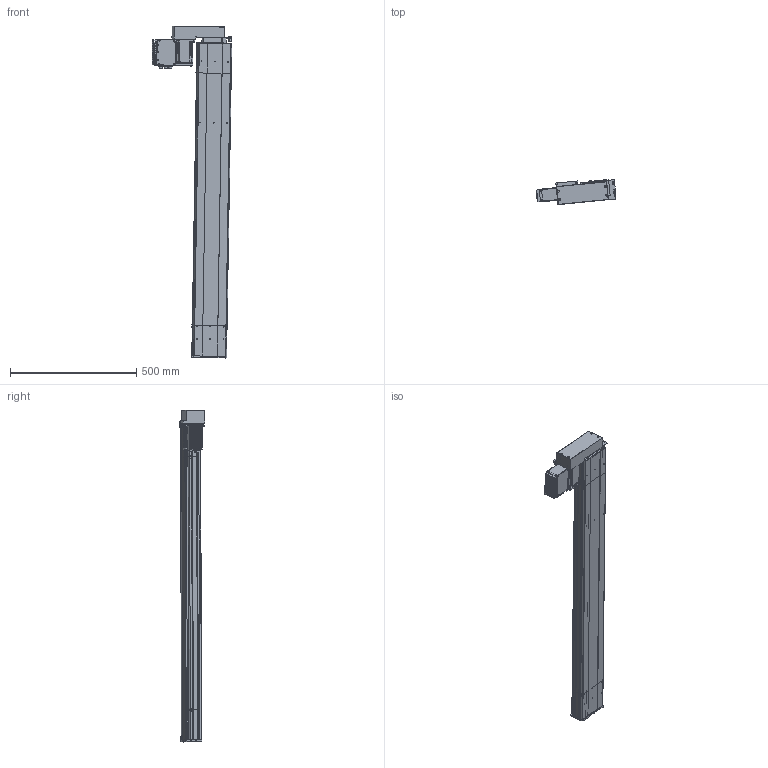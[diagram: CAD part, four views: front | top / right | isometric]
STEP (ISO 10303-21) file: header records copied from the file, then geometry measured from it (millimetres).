
FILE_DESCRIPTION (( 'STEP AP203' ), '1' );
FILE_NAME ('D14 TSH M4 BR L10 S1000.STEP', '2012-10-10T13:57:43', ( '' ), ( '' ), 'SwSTEP 2.0', 'SolidWorks 2010', '' );
FILE_SCHEMA (( 'CONFIG_CONTROL_DESIGN' ));
Products named in the file (27): T犨e contre le moteur_2; Sub D 9cts_2; T犨e fond_2; Connecteur rond D10 3cts_2; Moteur_2; corpl tail D14_Default_2; Tôle Arrière_2; Couvercle_2; Tôle latérale_2; Vis TF 3 torkx_2; plaque de  bout tail D14_Default_2; plaque de maintient D14; Vis CHC M8; vis CHC M7; D14 TSH M4 BR L10 S1000; corp head D14_Default_2; plaque de  bout head D14 MD_Default_2; Connecteur rond D12 4cts_2; Moteur 70BLDC90A_2; Colonnette_2; Radiateur_2; couvercle D14 head_Default_2; Pièce1002; Pièce1000; Embout raccord d14; plaque de bout head d14 BR; vis CHC M5.5
Assembly tree (59 placements, depth 3):
  D14 TSH M4 BR L10 S1000
    Pièce1002
    Embout raccord d14
      plaque de bout head d14 BR
      plaque de maintient D14
      Vis CHC M8  x2
      vis CHC M5.5  x4
      vis CHC M7  x2
    plaque de  bout head D14 MD_Default_2
    corpl tail D14_Default_2
    couvercle D14 head_Default_2  x2
    plaque de  bout tail D14_Default_2
    corp head D14_Default_2
    Pièce1000
    Moteur_2
      Vis TF 3 torkx_2  x26
      Tôle Arrière_2
      Connecteur rond D12 4cts_2
      Tôle latérale_2  x2
      Connecteur rond D10 3cts_2  x2
      Couvercle_2
      Sub D 9cts_2
      T犨e fond_2
      Colonnette_2
      Radiateur_2
      T犨e contre le moteur_2
      Moteur 70BLDC90A_2
Bounding box: 316.32 x 100.45 x 1315.8 mm (x, y, z)
Volume: 4805844.6 mm3; surface area: 1489488.7 mm2
Topology: 79 solids, 79 shells, 2575 faces, 6652 edges, 4377 vertices
Faces by surface type: plane 1388, cylinder 891, cone 150, bspline 130, torus 16
Entity records: 67439 total; most frequent: CARTESIAN_POINT 21211, ORIENTED_EDGE 8882, DIRECTION 8584, EDGE_CURVE 4441, VECTOR 2952, LINE 2952, VERTEX_POINT 2931, AXIS2_PLACEMENT_3D 2816
